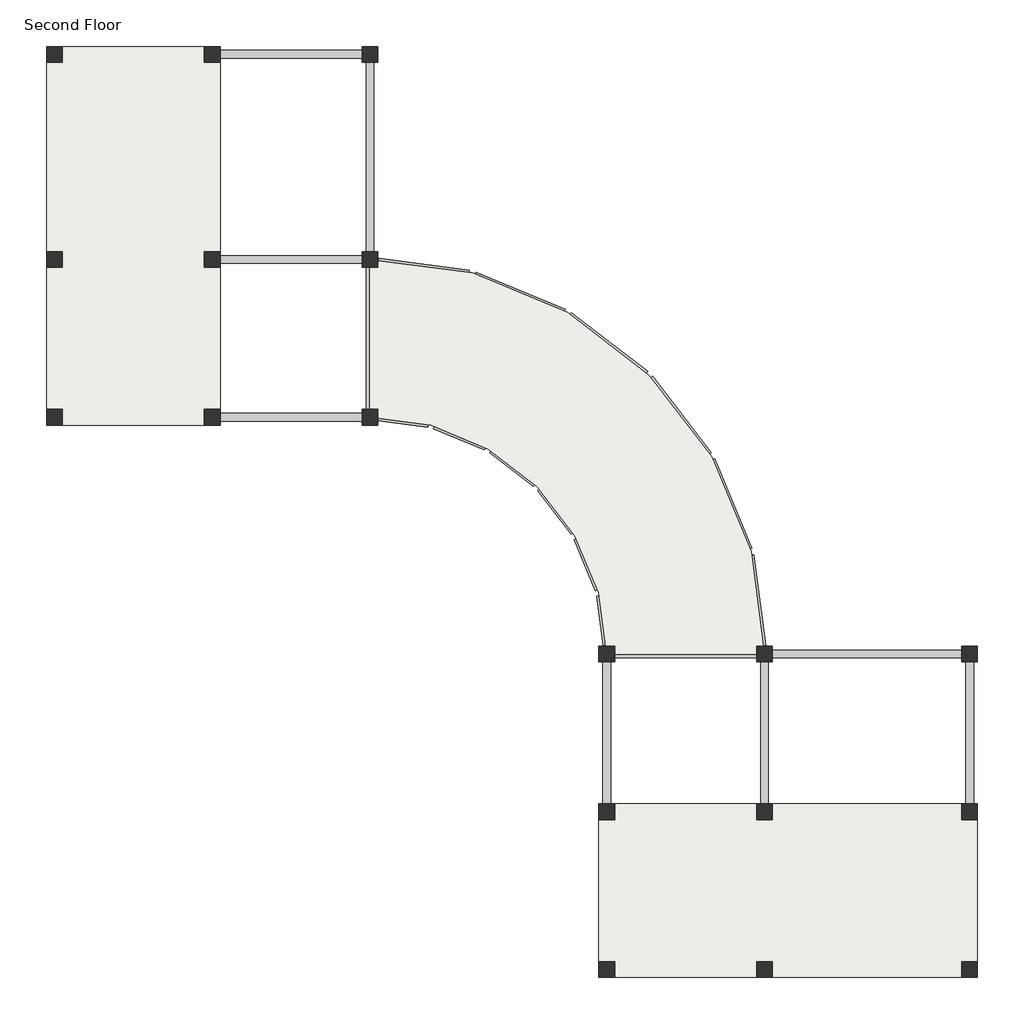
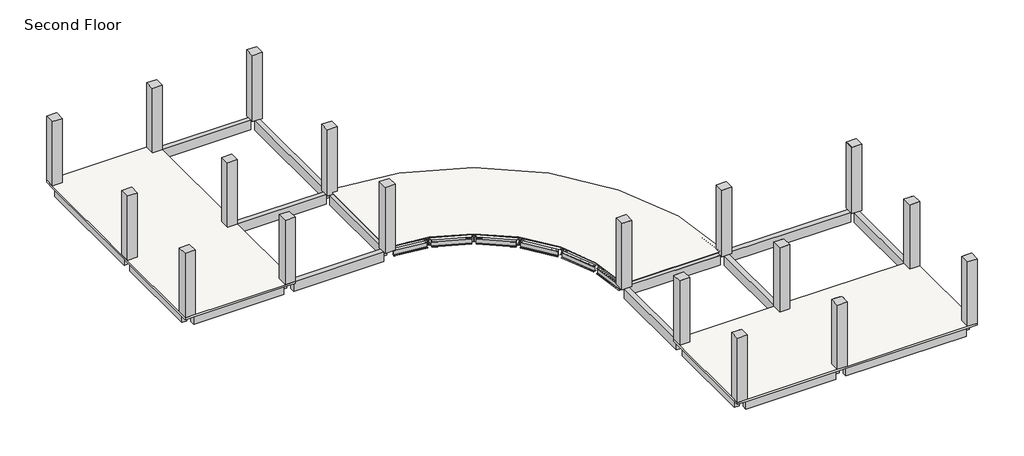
# One storey: 42 beams, 27 columns, 3 slabs.
"""IFC4 building model written with IfcOpenShell, lengths in millimetres."""

from ifc_helpers import new_model, si_unit, frame, origin, place, context, project, spatial, polyline, outline, extrude, faceted_brep, transform, mapped, element, save
from components import w_shapes_w14x30_e37d3bf5, w_shapes_w14x30_b3bb4f38, w_shapes_w14x30_e9898bc3, w_shapes_w14x30_4b075543, w_shapes_w14x30_7ddd8bd5, w_shapes_w14x30_4e72aeae, w_shapes_w14x30_47131812, w_shapes_w14x30_8e706a4a

model = new_model("IFC4")

# Units and contexts
model_context = context("Model", 3, world=origin())
ifc_project = project(units=[si_unit("LENGTHUNIT", "METRE", prefix="MILLI")], contexts=[model_context])

# Site, building, storey
site = spatial("IfcSite", under=ifc_project)
building = spatial("IfcBuilding", under=site)
storey = spatial("IfcBuildingStorey", under=building, Name="Second Floor", Elevation=3048.0)

# Beams
placement = place(None, origin())
element("IfcBeam", 1, ObjectType="Concrete-Rectangular Beam : 12 x 24", at=placement, inside=storey, context=model_context, shape_type="SweptSolid", body=[
    extrude(outline(polyline([(-38390.2357458, 10155.1034229), (-38390.2357458, 10459.9034229), (-32903.8357458, 10459.9034229), (-32903.8357458, 10155.1034229), (-38390.2357458, 10155.1034229)])), frame((0.0, 0.0, 2438.4), z_axis=(0.0, 0.0, 1.0), x_axis=(1.0, 0.0, 0.0)), (0.0, 0.0, 1.0), 609.6),
])
element("IfcBeam", 2, ObjectType="Concrete-Rectangular Beam : 12 x 24", at=placement, inside=storey, context=model_context, shape_type="SweptSolid", body=[
    extrude(outline(polyline([(-32294.2357458, 10155.1034229), (-32294.2357458, 10459.9034229), (-26807.8357458, 10459.9034229), (-26807.8357458, 10155.1034229), (-32294.2357458, 10155.1034229)])), frame((0.0, 0.0, 2438.4), z_axis=(0.0, 0.0, 1.0), x_axis=(1.0, 0.0, 0.0)), (0.0, 0.0, 1.0), 609.6),
])
element("IfcBeam", 3, ObjectType="Concrete-Rectangular Beam : 12 x 24", at=placement, inside=storey, context=model_context, shape_type="SweptSolid", body=[
    extrude(outline(polyline([(-32294.2357458, -3865.6965771), (-32294.2357458, -3560.8965771), (-26807.8357458, -3560.8965771), (-26807.8357458, -3865.6965771), (-32294.2357458, -3865.6965771)])), frame((0.0, 0.0, 2438.4), z_axis=(0.0, 0.0, 1.0), x_axis=(1.0, 0.0, 0.0)), (0.0, 0.0, 1.0), 609.6),
])
element("IfcBeam", 4, ObjectType="Concrete-Rectangular Beam : 12 x 24", at=placement, inside=storey, context=model_context, shape_type="SweptSolid", body=[
    extrude(outline(polyline([(-38390.2357458, -3865.6965771), (-38390.2357458, -3560.8965771), (-32903.8357458, -3560.8965771), (-32903.8357458, -3865.6965771), (-38390.2357458, -3865.6965771)])), frame((0.0, 0.0, 2438.4), z_axis=(0.0, 0.0, 1.0), x_axis=(1.0, 0.0, 0.0)), (0.0, 0.0, 1.0), 609.6),
])
element("IfcBeam", 5, ObjectType="Concrete-Rectangular Beam : 12 x 24", at=placement, inside=storey, context=model_context, shape_type="SweptSolid", body=[
    extrude(outline(polyline([(-32294.2357458, 2230.3034229), (-32294.2357458, 2535.1034229), (-26807.8357458, 2535.1034229), (-26807.8357458, 2230.3034229), (-32294.2357458, 2230.3034229)])), frame((0.0, 0.0, 2438.4), z_axis=(0.0, 0.0, 1.0), x_axis=(1.0, 0.0, 0.0)), (0.0, 0.0, 1.0), 609.6),
])
element("IfcBeam", 6, ObjectType="Concrete-Rectangular Beam : 12 x 24", at=placement, inside=storey, context=model_context, shape_type="SweptSolid", body=[
    extrude(outline(polyline([(-38390.2357458, 2230.3034229), (-38390.2357458, 2535.1034229), (-32903.8357458, 2535.1034229), (-32903.8357458, 2230.3034229), (-38390.2357458, 2230.3034229)])), frame((0.0, 0.0, 2438.4), z_axis=(0.0, 0.0, 1.0), x_axis=(1.0, 0.0, 0.0)), (0.0, 0.0, 1.0), 609.6),
])
element("IfcBeam", 7, ObjectType="Concrete-Rectangular Beam : 12 x 24", at=placement, inside=storey, context=model_context, shape_type="SweptSolid", body=[
    extrude(outline(polyline([(-26350.6357458, -3408.4965771), (-26655.4357458, -3408.4965771), (-26655.4357458, 2077.9034229), (-26350.6357458, 2077.9034229), (-26350.6357458, -3408.4965771)])), frame((0.0, 0.0, 2438.4), z_axis=(0.0, 0.0, 1.0), x_axis=(1.0, 0.0, 0.0)), (0.0, 0.0, 1.0), 609.6),
])
element("IfcBeam", 8, ObjectType="Concrete-Rectangular Beam : 12 x 24", at=placement, inside=storey, context=model_context, shape_type="SweptSolid", body=[
    extrude(outline(polyline([(-26350.6357458, 2687.5034229), (-26655.4357458, 2687.5034229), (-26655.4357458, 10002.7034229), (-26350.6357458, 10002.7034229), (-26350.6357458, 2687.5034229)])), frame((0.0, 0.0, 2438.4), z_axis=(0.0, 0.0, 1.0), x_axis=(1.0, 0.0, 0.0)), (0.0, 0.0, 1.0), 609.6),
])
element("IfcBeam", 9, ObjectType="Concrete-Rectangular Beam : 12 x 24", at=placement, inside=storey, context=model_context, shape_type="SweptSolid", body=[
    extrude(outline(polyline([(-32446.6357458, -3408.4965771), (-32751.4357458, -3408.4965771), (-32751.4357458, 2077.9034229), (-32446.6357458, 2077.9034229), (-32446.6357458, -3408.4965771)])), frame((0.0, 0.0, 2438.4), z_axis=(0.0, 0.0, 1.0), x_axis=(1.0, 0.0, 0.0)), (0.0, 0.0, 1.0), 609.6),
])
element("IfcBeam", 10, ObjectType="Concrete-Rectangular Beam : 12 x 24", at=placement, inside=storey, context=model_context, shape_type="SweptSolid", body=[
    extrude(outline(polyline([(-32446.6357458, 2687.5034229), (-32751.4357458, 2687.5034229), (-32751.4357458, 10002.7034229), (-32446.6357458, 10002.7034229), (-32446.6357458, 2687.5034229)])), frame((0.0, 0.0, 2438.4), z_axis=(0.0, 0.0, 1.0), x_axis=(1.0, 0.0, 0.0)), (0.0, 0.0, 1.0), 609.6),
])
element("IfcBeam", 11, ObjectType="Concrete-Rectangular Beam : 12 x 24", at=placement, inside=storey, context=model_context, shape_type="SweptSolid", body=[
    extrude(outline(polyline([(-38542.6357458, -3408.4965771), (-38847.4357458, -3408.4965771), (-38847.4357458, 2077.9034229), (-38542.6357458, 2077.9034229), (-38542.6357458, -3408.4965771)])), frame((0.0, 0.0, 2438.4), z_axis=(0.0, 0.0, 1.0), x_axis=(1.0, 0.0, 0.0)), (0.0, 0.0, 1.0), 609.6),
])
element("IfcBeam", 12, ObjectType="Concrete-Rectangular Beam : 12 x 24", at=placement, inside=storey, context=model_context, shape_type="SweptSolid", body=[
    extrude(outline(polyline([(-38542.6357458, 2687.5034229), (-38847.4357458, 2687.5034229), (-38847.4357458, 10002.7034229), (-38542.6357458, 10002.7034229), (-38542.6357458, 2687.5034229)])), frame((0.0, 0.0, 2438.4), z_axis=(0.0, 0.0, 1.0), x_axis=(1.0, 0.0, 0.0)), (0.0, 0.0, 1.0), 609.6),
])
element("IfcBeam", 13, ObjectType="Concrete-Rectangular Beam : 12 x 24", at=placement, inside=storey, context=model_context, shape_type="SweptSolid", body=[
    extrude(outline(polyline([(-3185.8357458, -24744.4965771), (-3490.6357458, -24744.4965771), (-3490.6357458, -19258.0965771), (-3185.8357458, -19258.0965771), (-3185.8357458, -24744.4965771)])), frame((0.0, 0.0, 2438.4), z_axis=(0.0, 0.0, 1.0), x_axis=(1.0, 0.0, 0.0)), (0.0, 0.0, 1.0), 609.6),
])
element("IfcBeam", 14, ObjectType="Concrete-Rectangular Beam : 12 x 24", at=placement, inside=storey, context=model_context, shape_type="SweptSolid", body=[
    extrude(outline(polyline([(-3185.8357458, -18648.4965771), (-3490.6357458, -18648.4965771), (-3490.6357458, -13162.0965771), (-3185.8357458, -13162.0965771), (-3185.8357458, -18648.4965771)])), frame((0.0, 0.0, 2438.4), z_axis=(0.0, 0.0, 1.0), x_axis=(1.0, 0.0, 0.0)), (0.0, 0.0, 1.0), 609.6),
])
element("IfcBeam", 15, ObjectType="Concrete-Rectangular Beam : 12 x 24", at=placement, inside=storey, context=model_context, shape_type="SweptSolid", body=[
    extrude(outline(polyline([(-17206.6357458, -18648.4965771), (-17511.4357458, -18648.4965771), (-17511.4357458, -13162.0965771), (-17206.6357458, -13162.0965771), (-17206.6357458, -18648.4965771)])), frame((0.0, 0.0, 2438.4), z_axis=(0.0, 0.0, 1.0), x_axis=(1.0, 0.0, 0.0)), (0.0, 0.0, 1.0), 609.6),
])
element("IfcBeam", 16, ObjectType="Concrete-Rectangular Beam : 12 x 24", at=placement, inside=storey, context=model_context, shape_type="SweptSolid", body=[
    extrude(outline(polyline([(-17206.6357458, -24744.4965771), (-17511.4357458, -24744.4965771), (-17511.4357458, -19258.0965771), (-17206.6357458, -19258.0965771), (-17206.6357458, -24744.4965771)])), frame((0.0, 0.0, 2438.4), z_axis=(0.0, 0.0, 1.0), x_axis=(1.0, 0.0, 0.0)), (0.0, 0.0, 1.0), 609.6),
])
element("IfcBeam", 17, ObjectType="Concrete-Rectangular Beam : 12 x 24", at=placement, inside=storey, context=model_context, shape_type="SweptSolid", body=[
    extrude(outline(polyline([(-11110.6357458, -18648.4965771), (-11415.4357458, -18648.4965771), (-11415.4357458, -13162.0965771), (-11110.6357458, -13162.0965771), (-11110.6357458, -18648.4965771)])), frame((0.0, 0.0, 2438.4), z_axis=(0.0, 0.0, 1.0), x_axis=(1.0, 0.0, 0.0)), (0.0, 0.0, 1.0), 609.6),
])
element("IfcBeam", 18, ObjectType="Concrete-Rectangular Beam : 12 x 24", at=placement, inside=storey, context=model_context, shape_type="SweptSolid", body=[
    extrude(outline(polyline([(-11110.6357458, -24744.4965771), (-11415.4357458, -24744.4965771), (-11415.4357458, -19258.0965771), (-11110.6357458, -19258.0965771), (-11110.6357458, -24744.4965771)])), frame((0.0, 0.0, 2438.4), z_axis=(0.0, 0.0, 1.0), x_axis=(1.0, 0.0, 0.0)), (0.0, 0.0, 1.0), 609.6),
])
element("IfcBeam", 19, ObjectType="Concrete-Rectangular Beam : 12 x 24", at=placement, inside=storey, context=model_context, shape_type="SweptSolid", body=[
    extrude(outline(polyline([(-17054.2357458, -13009.6965771), (-17054.2357458, -12704.8965771), (-11567.8357458, -12704.8965771), (-11567.8357458, -13009.6965771), (-17054.2357458, -13009.6965771)])), frame((0.0, 0.0, 2438.4), z_axis=(0.0, 0.0, 1.0), x_axis=(1.0, 0.0, 0.0)), (0.0, 0.0, 1.0), 609.6),
])
element("IfcBeam", 20, ObjectType="Concrete-Rectangular Beam : 12 x 24", at=placement, inside=storey, context=model_context, shape_type="SweptSolid", body=[
    extrude(outline(polyline([(-10958.2357458, -13009.6965771), (-10958.2357458, -12704.8965771), (-3643.0357458, -12704.8965771), (-3643.0357458, -13009.6965771), (-10958.2357458, -13009.6965771)])), frame((0.0, 0.0, 2438.4), z_axis=(0.0, 0.0, 1.0), x_axis=(1.0, 0.0, 0.0)), (0.0, 0.0, 1.0), 609.6),
])
element("IfcBeam", 21, ObjectType="Concrete-Rectangular Beam : 12 x 24", at=placement, inside=storey, context=model_context, shape_type="SweptSolid", body=[
    extrude(outline(polyline([(-17054.2357458, -19105.6965771), (-17054.2357458, -18800.8965771), (-11567.8357458, -18800.8965771), (-11567.8357458, -19105.6965771), (-17054.2357458, -19105.6965771)])), frame((0.0, 0.0, 2438.4), z_axis=(0.0, 0.0, 1.0), x_axis=(1.0, 0.0, 0.0)), (0.0, 0.0, 1.0), 609.6),
])
element("IfcBeam", 22, ObjectType="Concrete-Rectangular Beam : 12 x 24", at=placement, inside=storey, context=model_context, shape_type="SweptSolid", body=[
    extrude(outline(polyline([(-10958.2357458, -19105.6965771), (-10958.2357458, -18800.8965771), (-3643.0357458, -18800.8965771), (-3643.0357458, -19105.6965771), (-10958.2357458, -19105.6965771)])), frame((0.0, 0.0, 2438.4), z_axis=(0.0, 0.0, 1.0), x_axis=(1.0, 0.0, 0.0)), (0.0, 0.0, 1.0), 609.6),
])
element("IfcBeam", 23, ObjectType="Concrete-Rectangular Beam : 12 x 24", at=placement, inside=storey, context=model_context, shape_type="SweptSolid", body=[
    extrude(outline(polyline([(-17054.2357458, -25201.6965771), (-17054.2357458, -24896.8965771), (-11567.8357458, -24896.8965771), (-11567.8357458, -25201.6965771), (-17054.2357458, -25201.6965771)])), frame((0.0, 0.0, 2438.4), z_axis=(0.0, 0.0, 1.0), x_axis=(1.0, 0.0, 0.0)), (0.0, 0.0, 1.0), 609.6),
])
element("IfcBeam", 24, ObjectType="Concrete-Rectangular Beam : 12 x 24", at=placement, inside=storey, context=model_context, shape_type="SweptSolid", body=[
    extrude(outline(polyline([(-10958.2357458, -25201.6965771), (-10958.2357458, -24896.8965771), (-3643.0357458, -24896.8965771), (-3643.0357458, -25201.6965771), (-10958.2357458, -25201.6965771)])), frame((0.0, 0.0, 2438.4), z_axis=(0.0, 0.0, 1.0), x_axis=(1.0, 0.0, 0.0)), (0.0, 0.0, 1.0), 609.6),
])
w_shapes_w14x30_shape = w_shapes_w14x30_e37d3bf5(model_context)
element("IfcBeam", 25, ObjectType="W Shapes : W14X30", at=placement, inside=storey, context=model_context, shape_type="MappedRepresentation", body=[
    mapped(w_shapes_w14x30_shape, transform((-25319.7150716, -3869.0836993, 2745.74), x_axis=(0.9914448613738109, -0.13052619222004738, 0.0), y_axis=(0.13052619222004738, 0.9914448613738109, 0.0), z_axis=(0.0, 0.0, 1.0))),
])
w_shapes_w14x30_2_shape = w_shapes_w14x30_b3bb4f38(model_context)
element("IfcBeam", 26, ObjectType="W Shapes : W14X30", at=placement, inside=storey, context=model_context, shape_type="MappedRepresentation", body=[
    mapped(w_shapes_w14x30_2_shape, transform((-23033.7150716, -4481.6155532, 2745.74), x_axis=(0.9238795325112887, -0.38268343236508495, 0.0), y_axis=(0.38268343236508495, 0.9238795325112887, 0.0), z_axis=(0.0, 0.0, 1.0))),
])
element("IfcBeam", 27, ObjectType="W Shapes : W14X30", at=placement, inside=storey, context=model_context, shape_type="MappedRepresentation", body=[
    mapped(w_shapes_w14x30_2_shape, transform((-20984.1435422, -5664.9362274, 2745.74), x_axis=(0.7933533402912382, -0.6087614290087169, 0.0), y_axis=(0.6087614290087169, 0.7933533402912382, 0.0), z_axis=(0.0, 0.0, 1.0))),
])
element("IfcBeam", 28, ObjectType="W Shapes : W14X30", at=placement, inside=storey, context=model_context, shape_type="MappedRepresentation", body=[
    mapped(w_shapes_w14x30_2_shape, transform((-19310.6753961, -7338.4043735, 2745.74), x_axis=(0.6087614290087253, -0.7933533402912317, 0.0), y_axis=(0.7933533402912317, 0.6087614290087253, 0.0), z_axis=(0.0, 0.0, 1.0))),
])
element("IfcBeam", 29, ObjectType="W Shapes : W14X30", at=placement, inside=storey, context=model_context, shape_type="MappedRepresentation", body=[
    mapped(w_shapes_w14x30_2_shape, transform((-18127.3547219, -9387.9759029, 2745.74), x_axis=(0.38268343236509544, -0.9238795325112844, 0.0), y_axis=(0.9238795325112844, 0.38268343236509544, 0.0), z_axis=(0.0, 0.0, 1.0))),
])
w_shapes_w14x30_3_shape = w_shapes_w14x30_e9898bc3(model_context)
element("IfcBeam", 30, ObjectType="W Shapes : W14X30", at=placement, inside=storey, context=model_context, shape_type="MappedRepresentation", body=[
    mapped(w_shapes_w14x30_3_shape, transform((-17514.822868, -11673.9759029, 2745.74), x_axis=(0.1305261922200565, -0.9914448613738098, 0.0), y_axis=(0.9914448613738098, 0.1305261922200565, 0.0), z_axis=(0.0, 0.0, 1.0))),
])
w_shapes_w14x30_4_shape = w_shapes_w14x30_4b075543(model_context)
element("IfcBeam", 31, ObjectType="W Shapes : W14X30", at=placement, inside=storey, context=model_context, shape_type="MappedRepresentation", body=[
    mapped(w_shapes_w14x30_4_shape, transform((-23347.5139479, -1080.728903, 2745.74), x_axis=(0.25881904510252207, 0.9659258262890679, 0.0), y_axis=(-0.9659258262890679, 0.25881904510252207, 0.0), z_axis=(0.0, 0.0, 1.0))),
])
element("IfcBeam", 32, ObjectType="W Shapes : W14X30", at=placement, inside=storey, context=model_context, shape_type="MappedRepresentation", body=[
    mapped(w_shapes_w14x30_4_shape, transform((-14726.4680717, -9701.7747792, 2745.74), x_axis=(0.9659258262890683, 0.2588190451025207, 0.0), y_axis=(-0.2588190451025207, 0.9659258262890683, 0.0), z_axis=(0.0, 0.0, 1.0))),
])
element("IfcBeam", 33, ObjectType="W Shapes : W14X30", at=placement, inside=storey, context=model_context, shape_type="MappedRepresentation", body=[
    mapped(w_shapes_w14x30_4_shape, transform((-15944.4540229, -6761.2965771, 2745.74), x_axis=(0.866025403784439, 0.4999999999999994, 0.0), y_axis=(-0.4999999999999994, 0.866025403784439, 0.0), z_axis=(0.0, 0.0, 1.0))),
])
element("IfcBeam", 34, ObjectType="W Shapes : W14X30", at=placement, inside=storey, context=model_context, shape_type="MappedRepresentation", body=[
    mapped(w_shapes_w14x30_4_shape, transform((-17881.9898696, -4236.2507009, 2745.74), x_axis=(0.7071067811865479, 0.7071067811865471, 0.0), y_axis=(-0.7071067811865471, 0.7071067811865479, 0.0), z_axis=(0.0, 0.0, 1.0))),
])
element("IfcBeam", 35, ObjectType="W Shapes : W14X30", at=placement, inside=storey, context=model_context, shape_type="MappedRepresentation", body=[
    mapped(w_shapes_w14x30_4_shape, transform((-20407.0357458, -2298.7148542, 2745.74), x_axis=(0.5000000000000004, 0.8660254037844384, 0.0), y_axis=(-0.8660254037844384, 0.5000000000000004, 0.0), z_axis=(0.0, 0.0, 1.0))),
])
w_shapes_w14x30_5_shape = w_shapes_w14x30_7ddd8bd5(model_context)
element("IfcBeam", 36, ObjectType="W Shapes : W14X30", at=placement, inside=storey, context=model_context, shape_type="MappedRepresentation", body=[
    mapped(w_shapes_w14x30_5_shape, transform((-14311.0357458, -12857.2965771, 2745.74), x_axis=(1.0, 0.0, 0.0), y_axis=(0.0, 1.0, 0.0), z_axis=(0.0, 0.0, 1.0))),
])
w_shapes_w14x30_6_shape = w_shapes_w14x30_4e72aeae(model_context)
element("IfcBeam", 37, ObjectType="W Shapes : W14X30", at=placement, inside=storey, context=model_context, shape_type="MappedRepresentation", body=[
    mapped(w_shapes_w14x30_6_shape, transform((-24530.8346221, 2123.0582192, 2745.74), x_axis=(0.991444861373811, -0.1305261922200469, 0.0), y_axis=(0.1305261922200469, 0.991444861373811, 0.0), z_axis=(0.0, 0.0, 1.0))),
])
w_shapes_w14x30_7_shape = w_shapes_w14x30_47131812(model_context)
element("IfcBeam", 38, ObjectType="W Shapes : W14X30", at=placement, inside=storey, context=model_context, shape_type="MappedRepresentation", body=[
    mapped(w_shapes_w14x30_7_shape, transform((-20720.8346221, 1102.171796, 2745.74), x_axis=(0.9238795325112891, -0.3826834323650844, 0.0), y_axis=(0.3826834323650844, 0.9238795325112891, 0.0), z_axis=(0.0, 0.0, 1.0))),
])
element("IfcBeam", 39, ObjectType="W Shapes : W14X30", at=placement, inside=storey, context=model_context, shape_type="MappedRepresentation", body=[
    mapped(w_shapes_w14x30_7_shape, transform((-17304.8820732, -870.0293276, 2745.74), x_axis=(0.7933533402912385, -0.6087614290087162, 0.0), y_axis=(0.6087614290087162, 0.7933533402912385, 0.0), z_axis=(0.0, 0.0, 1.0))),
])
element("IfcBeam", 40, ObjectType="W Shapes : W14X30", at=placement, inside=storey, context=model_context, shape_type="MappedRepresentation", body=[
    mapped(w_shapes_w14x30_7_shape, transform((-14515.7684963, -3659.1429045, 2745.74), x_axis=(0.608761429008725, -0.7933533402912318, 0.0), y_axis=(0.7933533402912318, 0.608761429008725, 0.0), z_axis=(0.0, 0.0, 1.0))),
])
element("IfcBeam", 41, ObjectType="W Shapes : W14X30", at=placement, inside=storey, context=model_context, shape_type="MappedRepresentation", body=[
    mapped(w_shapes_w14x30_7_shape, transform((-12543.5673727, -7075.0954534, 2745.74), x_axis=(0.38268343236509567, -0.9238795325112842, 0.0), y_axis=(0.9238795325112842, 0.38268343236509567, 0.0), z_axis=(0.0, 0.0, 1.0))),
])
w_shapes_w14x30_8_shape = w_shapes_w14x30_8e706a4a(model_context)
element("IfcBeam", 42, ObjectType="W Shapes : W14X30", at=placement, inside=storey, context=model_context, shape_type="MappedRepresentation", body=[
    mapped(w_shapes_w14x30_8_shape, transform((-11522.6809495, -10885.0954534, 2745.74), x_axis=(0.13052619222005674, -0.9914448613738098, 0.0), y_axis=(0.9914448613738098, 0.13052619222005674, 0.0), z_axis=(0.0, 0.0, 1.0))),
])

# Columns
element("IfcColumn", 43, ObjectType="Concrete-Rectangular-Column : 24 x 24", at=placement, inside=storey, context=model_context, shape_type="SweptSolid", body=[
    extrude(outline(polyline([(-38999.8357458, -4018.0965771), (-38999.8357458, -3408.4965771), (-38390.2357458, -3408.4965771), (-38390.2357458, -4018.0965771), (-38999.8357458, -4018.0965771)])), frame((0.0, 0.0, 3168.65), z_axis=(0.0, 0.0, 1.0), x_axis=(1.0, 0.0, 0.0)), (0.0, 0.0, 1.0), 4146.55),
])
element("IfcColumn", 44, ObjectType="Concrete-Rectangular-Column : 24 x 24", at=placement, inside=storey, context=model_context, shape_type="SweptSolid", body=[
    extrude(outline(polyline([(-38999.8357458, 2077.9034229), (-38999.8357458, 2687.5034229), (-38390.2357458, 2687.5034229), (-38390.2357458, 2077.9034229), (-38999.8357458, 2077.9034229)])), frame((0.0, 0.0, 3168.65), z_axis=(0.0, 0.0, 1.0), x_axis=(1.0, 0.0, 0.0)), (0.0, 0.0, 1.0), 4146.55),
])
element("IfcColumn", 45, ObjectType="Concrete-Rectangular-Column : 24 x 24", at=placement, inside=storey, context=model_context, shape_type="SweptSolid", body=[
    extrude(outline(polyline([(-38390.2357458, 10612.3034229), (-38390.2357458, 10002.7034229), (-38999.8357458, 10002.7034229), (-38999.8357458, 10612.3034229), (-38390.2357458, 10612.3034229)])), frame((0.0, 0.0, 3168.65), z_axis=(0.0, 0.0, 1.0), x_axis=(1.0, 0.0, 0.0)), (0.0, 0.0, 1.0), 4146.55),
])
element("IfcColumn", 46, ObjectType="Concrete-Rectangular-Column : 24 x 24", at=placement, inside=storey, context=model_context, shape_type="SweptSolid", body=[
    extrude(outline(polyline([(-32903.8357458, -4018.0965771), (-32903.8357458, -3408.4965771), (-32294.2357458, -3408.4965771), (-32294.2357458, -4018.0965771), (-32903.8357458, -4018.0965771)])), frame((0.0, 0.0, 3168.65), z_axis=(0.0, 0.0, 1.0), x_axis=(1.0, 0.0, 0.0)), (0.0, 0.0, 1.0), 4146.55),
])
element("IfcColumn", 47, ObjectType="Concrete-Rectangular-Column : 24 x 24", at=placement, inside=storey, context=model_context, shape_type="SweptSolid", body=[
    extrude(outline(polyline([(-32903.8357458, 2077.9034229), (-32903.8357458, 2687.5034229), (-32294.2357458, 2687.5034229), (-32294.2357458, 2077.9034229), (-32903.8357458, 2077.9034229)])), frame((0.0, 0.0, 3168.65), z_axis=(0.0, 0.0, 1.0), x_axis=(1.0, 0.0, 0.0)), (0.0, 0.0, 1.0), 4146.55),
])
element("IfcColumn", 48, ObjectType="Concrete-Rectangular-Column : 24 x 24", at=placement, inside=storey, context=model_context, shape_type="SweptSolid", body=[
    extrude(outline(polyline([(-32294.2357458, 10612.3034229), (-32294.2357458, 10002.7034229), (-32903.8357458, 10002.7034229), (-32903.8357458, 10612.3034229), (-32294.2357458, 10612.3034229)])), frame((0.0, 0.0, 3168.65), z_axis=(0.0, 0.0, 1.0), x_axis=(1.0, 0.0, 0.0)), (0.0, 0.0, 1.0), 4146.55),
])
element("IfcColumn", 49, ObjectType="Concrete-Rectangular-Column : 24 x 24", at=placement, inside=storey, context=model_context, shape_type="Brep", body=[
    faceted_brep([(-26807.8357458, -4018.0965771, 3048.0), (-26807.8357458, -3408.4965771, 3048.0), (-26198.2357458, -3408.4965771, 3048.0), (-26198.2357458, -4018.0965771, 3048.0), (-26807.8357458, -4018.0965771, 7315.2), (-26807.8357458, -3408.4965771, 7315.2), (-26198.2357458, -3408.4965771, 7315.2), (-26198.2357458, -3408.4965771, 3168.65), (-26503.0357458, -3408.4965771, 3168.65), (-26503.0357458, -3408.4965771, 3130.55), (-26198.2357458, -3408.4965771, 3130.55), (-26198.2357458, -3753.4242584, 3130.55), (-26198.2357458, -3753.4242584, 3168.65), (-26198.2357458, -4018.0965771, 7315.2), (-26503.0357458, -3713.2965771, 3130.55), (-26503.0357458, -3713.2965771, 3168.65)], [[[0, 1, 2, 3]], [[1, 0, 4, 5]], [[2, 1, 5, 6, 7, 8, 9, 10]], [[3, 2, 10, 11, 12, 7, 6, 13]], [[0, 3, 13, 4]], [[5, 4, 13, 6]], [[9, 14, 11, 10]], [[12, 15, 8, 7]], [[14, 15, 12, 11]], [[15, 14, 9, 8]]]),
])
element("IfcColumn", 50, ObjectType="Concrete-Rectangular-Column : 24 x 24", at=placement, inside=storey, context=model_context, shape_type="Brep", body=[
    faceted_brep([(-26807.8357458, 2077.9034229, 3048.0), (-26807.8357458, 2687.5034229, 3048.0), (-26198.2357458, 2687.5034229, 3048.0), (-26198.2357458, 2077.9034229, 3048.0), (-26807.8357458, 2077.9034229, 7315.2), (-26807.8357458, 2687.5034229, 7315.2), (-26198.2357458, 2687.5034229, 7315.2), (-26198.2357458, 2077.9034229, 7315.2), (-26198.2357458, 2077.9034229, 3168.65), (-26198.2357458, 2342.5757416, 3168.65), (-26198.2357458, 2342.5757416, 3130.55), (-26198.2357458, 2077.9034229, 3130.55), (-26503.0357458, 2077.9034229, 3130.55), (-26503.0357458, 2077.9034229, 3168.65), (-26503.0357458, 2382.7034229, 3130.55), (-26503.0357458, 2382.7034229, 3168.65)], [[[0, 1, 2, 3]], [[1, 0, 4, 5]], [[2, 1, 5, 6]], [[3, 2, 6, 7, 8, 9, 10, 11]], [[0, 3, 11, 12, 13, 8, 7, 4]], [[5, 4, 7, 6]], [[14, 12, 11, 10]], [[15, 9, 8, 13]], [[15, 14, 10, 9]], [[14, 15, 13, 12]]]),
])
element("IfcColumn", 51, ObjectType="Concrete-Rectangular-Column : 24 x 24", at=placement, inside=storey, context=model_context, shape_type="SweptSolid", body=[
    extrude(outline(polyline([(-26198.2357458, 10612.3034229), (-26198.2357458, 10002.7034229), (-26807.8357458, 10002.7034229), (-26807.8357458, 10612.3034229), (-26198.2357458, 10612.3034229)])), frame((0.0, 0.0, 3048.0), z_axis=(0.0, 0.0, 1.0), x_axis=(1.0, 0.0, 0.0)), (0.0, 0.0, 1.0), 4267.2),
])
element("IfcColumn", 52, ObjectType="Concrete-Rectangular-Column : 24 x 24", at=placement, inside=storey, context=model_context, shape_type="SweptSolid", body=[
    extrude(outline(polyline([(-17054.2357458, -25354.0965771), (-17663.8357458, -25354.0965771), (-17663.8357458, -24744.4965771), (-17054.2357458, -24744.4965771), (-17054.2357458, -25354.0965771)])), frame((0.0, 0.0, 3168.65), z_axis=(0.0, 0.0, 1.0), x_axis=(1.0, 0.0, 0.0)), (0.0, 0.0, 1.0), 4146.55),
])
element("IfcColumn", 53, ObjectType="Concrete-Rectangular-Column : 24 x 24", at=placement, inside=storey, context=model_context, shape_type="SweptSolid", body=[
    extrude(outline(polyline([(-10958.2357458, -25354.0965771), (-11567.8357458, -25354.0965771), (-11567.8357458, -24744.4965771), (-10958.2357458, -24744.4965771), (-10958.2357458, -25354.0965771)])), frame((0.0, 0.0, 3168.65), z_axis=(0.0, 0.0, 1.0), x_axis=(1.0, 0.0, 0.0)), (0.0, 0.0, 1.0), 4146.55),
])
element("IfcColumn", 54, ObjectType="Concrete-Rectangular-Column : 24 x 24", at=placement, inside=storey, context=model_context, shape_type="SweptSolid", body=[
    extrude(outline(polyline([(-3643.0357458, -24744.4965771), (-3033.4357458, -24744.4965771), (-3033.4357458, -25354.0965771), (-3643.0357458, -25354.0965771), (-3643.0357458, -24744.4965771)])), frame((0.0, 0.0, 3168.65), z_axis=(0.0, 0.0, 1.0), x_axis=(1.0, 0.0, 0.0)), (0.0, 0.0, 1.0), 4146.55),
])
element("IfcColumn", 55, ObjectType="Concrete-Rectangular-Column : 24 x 24", at=placement, inside=storey, context=model_context, shape_type="SweptSolid", body=[
    extrude(outline(polyline([(-17054.2357458, -19258.0965771), (-17663.8357458, -19258.0965771), (-17663.8357458, -18648.4965771), (-17054.2357458, -18648.4965771), (-17054.2357458, -19258.0965771)])), frame((0.0, 0.0, 3168.65), z_axis=(0.0, 0.0, 1.0), x_axis=(1.0, 0.0, 0.0)), (0.0, 0.0, 1.0), 4146.55),
])
element("IfcColumn", 56, ObjectType="Concrete-Rectangular-Column : 24 x 24", at=placement, inside=storey, context=model_context, shape_type="SweptSolid", body=[
    extrude(outline(polyline([(-10958.2357458, -19258.0965771), (-11567.8357458, -19258.0965771), (-11567.8357458, -18648.4965771), (-10958.2357458, -18648.4965771), (-10958.2357458, -19258.0965771)])), frame((0.0, 0.0, 3168.65), z_axis=(0.0, 0.0, 1.0), x_axis=(1.0, 0.0, 0.0)), (0.0, 0.0, 1.0), 4146.55),
])
element("IfcColumn", 57, ObjectType="Concrete-Rectangular-Column : 24 x 24", at=placement, inside=storey, context=model_context, shape_type="SweptSolid", body=[
    extrude(outline(polyline([(-3643.0357458, -18648.4965771), (-3033.4357458, -18648.4965771), (-3033.4357458, -19258.0965771), (-3643.0357458, -19258.0965771), (-3643.0357458, -18648.4965771)])), frame((0.0, 0.0, 3168.65), z_axis=(0.0, 0.0, 1.0), x_axis=(1.0, 0.0, 0.0)), (0.0, 0.0, 1.0), 4146.55),
])
element("IfcColumn", 58, ObjectType="Concrete-Rectangular-Column : 24 x 24", at=placement, inside=storey, context=model_context, shape_type="Brep", body=[
    faceted_brep([(-17054.2357458, -13162.0965771, 3048.0), (-17663.8357458, -13162.0965771, 3048.0), (-17663.8357458, -12552.4965771, 3048.0), (-17054.2357458, -12552.4965771, 3048.0), (-17054.2357458, -13162.0965771, 7315.2), (-17663.8357458, -13162.0965771, 7315.2), (-17054.2357458, -12552.4965771, 3130.55), (-17054.2357458, -12857.2965771, 3130.55), (-17054.2357458, -12857.2965771, 3168.65), (-17054.2357458, -12552.4965771, 3168.65), (-17054.2357458, -12552.4965771, 7315.2), (-17663.8357458, -12552.4965771, 7315.2), (-17399.1634271, -12552.4965771, 3168.65), (-17399.1634271, -12552.4965771, 3130.55), (-17359.0357458, -12857.2965771, 3130.55), (-17359.0357458, -12857.2965771, 3168.65)], [[[0, 1, 2, 3]], [[1, 0, 4, 5]], [[0, 3, 6, 7, 8, 9, 10, 4]], [[3, 2, 11, 10, 9, 12, 13, 6]], [[2, 1, 5, 11]], [[5, 4, 10, 11]], [[13, 14, 7, 6]], [[8, 15, 12, 9]], [[14, 15, 8, 7]], [[15, 14, 13, 12]]]),
])
element("IfcColumn", 59, ObjectType="Concrete-Rectangular-Column : 24 x 24", at=placement, inside=storey, context=model_context, shape_type="Brep", body=[
    faceted_brep([(-10958.2357458, -13162.0965771, 3048.0), (-11567.8357458, -13162.0965771, 3048.0), (-11567.8357458, -12552.4965771, 3048.0), (-10958.2357458, -12552.4965771, 3048.0), (-10958.2357458, -13162.0965771, 7315.2), (-11567.8357458, -13162.0965771, 7315.2), (-10958.2357458, -12552.4965771, 7315.2), (-11567.8357458, -12552.4965771, 3130.55), (-11303.1634271, -12552.4965771, 3130.55), (-11303.1634271, -12552.4965771, 3168.65), (-11567.8357458, -12552.4965771, 3168.65), (-11567.8357458, -12552.4965771, 7315.2), (-11567.8357458, -12857.2965771, 3168.65), (-11567.8357458, -12857.2965771, 3130.55), (-11263.0357458, -12857.2965771, 3130.55), (-11263.0357458, -12857.2965771, 3168.65)], [[[0, 1, 2, 3]], [[1, 0, 4, 5]], [[0, 3, 6, 4]], [[3, 2, 7, 8, 9, 10, 11, 6]], [[2, 1, 5, 11, 10, 12, 13, 7]], [[5, 4, 6, 11]], [[13, 14, 8, 7]], [[9, 15, 12, 10]], [[14, 15, 9, 8]], [[15, 14, 13, 12]]]),
])
element("IfcColumn", 60, ObjectType="Concrete-Rectangular-Column : 24 x 24", at=placement, inside=storey, context=model_context, shape_type="SweptSolid", body=[
    extrude(outline(polyline([(-3033.4357458, -12552.4965771), (-3033.4357458, -13162.0965771), (-3643.0357458, -13162.0965771), (-3643.0357458, -12552.4965771), (-3033.4357458, -12552.4965771)])), frame((0.0, 0.0, 3048.0), z_axis=(0.0, 0.0, 1.0), x_axis=(1.0, 0.0, 0.0)), (0.0, 0.0, 1.0), 4267.2),
])
element("IfcColumn", 61, ObjectType="Concrete-Rectangular-Column : 24 x 24", at=placement, inside=storey, context=model_context, shape_type="Brep", body=[
    faceted_brep([(-17054.2357458, -25354.0965771, 7315.2), (-17663.8357458, -25354.0965771, 7315.2), (-17663.8357458, -25354.0965771, 3168.65), (-17054.2357458, -25354.0965771, 3168.65), (-17054.2357458, -24744.4965771, 7315.2), (-17054.2357458, -24896.8965771, 7315.2), (-17054.2357458, -25201.6965771, 7315.2), (-17054.2357458, -24744.4965771, 3168.65), (-17663.8357458, -24744.4965771, 7315.2), (-17511.4357458, -24744.4965771, 7315.2), (-17206.6357458, -24744.4965771, 7315.2), (-17663.8357458, -24744.4965771, 3168.65)], [[[0, 1, 2, 3]], [[4, 5, 6, 0, 3, 7]], [[8, 9, 10, 4, 7, 11]], [[1, 8, 11, 2]], [[1, 0, 6, 5, 4, 10, 9, 8]], [[3, 2, 11, 7]]]),
])
element("IfcColumn", 62, ObjectType="Concrete-Rectangular-Column : 24 x 24", at=placement, inside=storey, context=model_context, shape_type="Brep", body=[
    faceted_brep([(-10958.2357458, -25354.0965771, 7315.2), (-11567.8357458, -25354.0965771, 7315.2), (-11567.8357458, -25354.0965771, 3168.65), (-10958.2357458, -25354.0965771, 3168.65), (-10958.2357458, -24744.4965771, 7315.2), (-10958.2357458, -24896.8965771, 7315.2), (-10958.2357458, -25201.6965771, 7315.2), (-10958.2357458, -24744.4965771, 3168.65), (-11567.8357458, -24744.4965771, 7315.2), (-11415.4357458, -24744.4965771, 7315.2), (-11110.6357458, -24744.4965771, 7315.2), (-11567.8357458, -24744.4965771, 3168.65), (-11567.8357458, -25201.6965771, 7315.2), (-11567.8357458, -24896.8965771, 7315.2)], [[[0, 1, 2, 3]], [[4, 5, 6, 0, 3, 7]], [[8, 9, 10, 4, 7, 11]], [[1, 12, 13, 8, 11, 2]], [[1, 0, 6, 5, 4, 10, 9, 8, 13, 12]], [[3, 2, 11, 7]]]),
])
element("IfcColumn", 63, ObjectType="Concrete-Rectangular-Column : 24 x 24", at=placement, inside=storey, context=model_context, shape_type="Brep", body=[
    faceted_brep([(-3643.0357458, -24744.4965771, 7315.2), (-3490.6357458, -24744.4965771, 7315.2), (-3185.8357458, -24744.4965771, 7315.2), (-3033.4357458, -24744.4965771, 7315.2), (-3033.4357458, -24744.4965771, 3168.65), (-3643.0357458, -24744.4965771, 3168.65), (-3643.0357458, -25354.0965771, 7315.2), (-3643.0357458, -25201.6965771, 7315.2), (-3643.0357458, -24896.8965771, 7315.2), (-3643.0357458, -25354.0965771, 3168.65), (-3033.4357458, -25354.0965771, 7315.2), (-3033.4357458, -25354.0965771, 3168.65)], [[[0, 1, 2, 3, 4, 5]], [[6, 7, 8, 0, 5, 9]], [[10, 6, 9, 11]], [[3, 10, 11, 4]], [[3, 2, 1, 0, 8, 7, 6, 10]], [[5, 4, 11, 9]]]),
])
element("IfcColumn", 64, ObjectType="Concrete-Rectangular-Column : 24 x 24", at=placement, inside=storey, context=model_context, shape_type="Brep", body=[
    faceted_brep([(-17054.2357458, -19258.0965771, 7315.2), (-17206.6357458, -19258.0965771, 7315.2), (-17511.4357458, -19258.0965771, 7315.2), (-17663.8357458, -19258.0965771, 7315.2), (-17663.8357458, -19258.0965771, 3168.65), (-17054.2357458, -19258.0965771, 3168.65), (-17054.2357458, -18648.4965771, 7315.2), (-17054.2357458, -18800.8965771, 7315.2), (-17054.2357458, -19105.6965771, 7315.2), (-17054.2357458, -18648.4965771, 3168.65), (-17663.8357458, -18648.4965771, 7315.2), (-17511.4357458, -18648.4965771, 7315.2), (-17206.6357458, -18648.4965771, 7315.2), (-17663.8357458, -18648.4965771, 3168.65)], [[[0, 1, 2, 3, 4, 5]], [[6, 7, 8, 0, 5, 9]], [[10, 11, 12, 6, 9, 13]], [[3, 10, 13, 4]], [[3, 2, 1, 0, 8, 7, 6, 12, 11, 10]], [[5, 4, 13, 9]]]),
])
element("IfcColumn", 65, ObjectType="Concrete-Rectangular-Column : 24 x 24", at=placement, inside=storey, context=model_context, shape_type="Brep", body=[
    faceted_brep([(-10958.2357458, -19258.0965771, 7315.2), (-11110.6357458, -19258.0965771, 7315.2), (-11415.4357458, -19258.0965771, 7315.2), (-11567.8357458, -19258.0965771, 7315.2), (-11567.8357458, -19258.0965771, 3168.65), (-10958.2357458, -19258.0965771, 3168.65), (-10958.2357458, -18648.4965771, 7315.2), (-10958.2357458, -18800.8965771, 7315.2), (-10958.2357458, -19105.6965771, 7315.2), (-10958.2357458, -18648.4965771, 3168.65), (-11567.8357458, -18648.4965771, 7315.2), (-11415.4357458, -18648.4965771, 7315.2), (-11110.6357458, -18648.4965771, 7315.2), (-11567.8357458, -18648.4965771, 3168.65), (-11567.8357458, -19105.6965771, 7315.2), (-11567.8357458, -18800.8965771, 7315.2)], [[[0, 1, 2, 3, 4, 5]], [[6, 7, 8, 0, 5, 9]], [[10, 11, 12, 6, 9, 13]], [[3, 14, 15, 10, 13, 4]], [[3, 2, 1, 0, 8, 7, 6, 12, 11, 10, 15, 14]], [[5, 4, 13, 9]]]),
])
element("IfcColumn", 66, ObjectType="Concrete-Rectangular-Column : 24 x 24", at=placement, inside=storey, context=model_context, shape_type="Brep", body=[
    faceted_brep([(-3643.0357458, -18648.4965771, 7315.2), (-3490.6357458, -18648.4965771, 7315.2), (-3185.8357458, -18648.4965771, 7315.2), (-3033.4357458, -18648.4965771, 7315.2), (-3033.4357458, -18648.4965771, 3168.65), (-3643.0357458, -18648.4965771, 3168.65), (-3643.0357458, -19258.0965771, 7315.2), (-3643.0357458, -19105.6965771, 7315.2), (-3643.0357458, -18800.8965771, 7315.2), (-3643.0357458, -19258.0965771, 3168.65), (-3033.4357458, -19258.0965771, 7315.2), (-3185.8357458, -19258.0965771, 7315.2), (-3490.6357458, -19258.0965771, 7315.2), (-3033.4357458, -19258.0965771, 3168.65)], [[[0, 1, 2, 3, 4, 5]], [[6, 7, 8, 0, 5, 9]], [[10, 11, 12, 6, 9, 13]], [[3, 10, 13, 4]], [[3, 2, 1, 0, 8, 7, 6, 12, 11, 10]], [[5, 4, 13, 9]]]),
])
element("IfcColumn", 67, ObjectType="Concrete-Rectangular-Column : 24 x 24", at=placement, inside=storey, context=model_context, shape_type="Brep", body=[
    faceted_brep([(-17054.2357458, -13162.0965771, 3048.0), (-17663.8357458, -13162.0965771, 3048.0), (-17663.8357458, -12552.4965771, 3048.0), (-17054.2357458, -12552.4965771, 3048.0), (-17054.2357458, -13162.0965771, 7315.2), (-17206.6357458, -13162.0965771, 7315.2), (-17511.4357458, -13162.0965771, 7315.2), (-17663.8357458, -13162.0965771, 7315.2), (-17054.2357458, -12552.4965771, 3130.55), (-17054.2357458, -12857.2965771, 3130.55), (-17054.2357458, -12857.2965771, 3168.65), (-17054.2357458, -12552.4965771, 3168.65), (-17054.2357458, -12552.4965771, 7315.2), (-17054.2357458, -12704.8965771, 7315.2), (-17054.2357458, -13009.6965771, 7315.2), (-17663.8357458, -12552.4965771, 7315.2), (-17399.1634271, -12552.4965771, 3168.65), (-17399.1634271, -12552.4965771, 3130.55), (-17359.0357458, -12857.2965771, 3130.55), (-17359.0357458, -12857.2965771, 3168.65)], [[[0, 1, 2, 3]], [[1, 0, 4, 5, 6, 7]], [[0, 3, 8, 9, 10, 11, 12, 13, 14, 4]], [[3, 2, 15, 12, 11, 16, 17, 8]], [[2, 1, 7, 15]], [[7, 6, 5, 4, 14, 13, 12, 15]], [[17, 18, 9, 8]], [[10, 19, 16, 11]], [[18, 19, 10, 9]], [[19, 18, 17, 16]]]),
])
element("IfcColumn", 68, ObjectType="Concrete-Rectangular-Column : 24 x 24", at=placement, inside=storey, context=model_context, shape_type="Brep", body=[
    faceted_brep([(-10958.2357458, -13162.0965771, 3048.0), (-11567.8357458, -13162.0965771, 3048.0), (-11567.8357458, -12552.4965771, 3048.0), (-10958.2357458, -12552.4965771, 3048.0), (-10958.2357458, -13162.0965771, 7315.2), (-11110.6357458, -13162.0965771, 7315.2), (-11415.4357458, -13162.0965771, 7315.2), (-11567.8357458, -13162.0965771, 7315.2), (-10958.2357458, -12552.4965771, 7315.2), (-10958.2357458, -12704.8965771, 7315.2), (-10958.2357458, -13009.6965771, 7315.2), (-11567.8357458, -12552.4965771, 3130.55), (-11303.1634271, -12552.4965771, 3130.55), (-11303.1634271, -12552.4965771, 3168.65), (-11567.8357458, -12552.4965771, 3168.65), (-11567.8357458, -12552.4965771, 7315.2), (-11567.8357458, -13009.6965771, 7315.2), (-11567.8357458, -12704.8965771, 7315.2), (-11567.8357458, -12857.2965771, 3168.65), (-11567.8357458, -12857.2965771, 3130.55), (-11263.0357458, -12857.2965771, 3130.55), (-11263.0357458, -12857.2965771, 3168.65)], [[[0, 1, 2, 3]], [[1, 0, 4, 5, 6, 7]], [[0, 3, 8, 9, 10, 4]], [[3, 2, 11, 12, 13, 14, 15, 8]], [[2, 1, 7, 16, 17, 15, 14, 18, 19, 11]], [[7, 6, 5, 4, 10, 9, 8, 15, 17, 16]], [[19, 20, 12, 11]], [[13, 21, 18, 14]], [[20, 21, 13, 12]], [[21, 20, 19, 18]]]),
])
element("IfcColumn", 69, ObjectType="Concrete-Rectangular-Column : 24 x 24", at=placement, inside=storey, context=model_context, shape_type="Brep", body=[
    faceted_brep([(-3033.4357458, -12552.4965771, 3048.0), (-3033.4357458, -13162.0965771, 3048.0), (-3643.0357458, -13162.0965771, 3048.0), (-3643.0357458, -12552.4965771, 3048.0), (-3033.4357458, -12552.4965771, 7315.2), (-3643.0357458, -12552.4965771, 7315.2), (-3643.0357458, -13162.0965771, 7315.2), (-3643.0357458, -13009.6965771, 7315.2), (-3643.0357458, -12704.8965771, 7315.2), (-3033.4357458, -13162.0965771, 7315.2), (-3185.8357458, -13162.0965771, 7315.2), (-3490.6357458, -13162.0965771, 7315.2)], [[[0, 1, 2, 3]], [[4, 0, 3, 5]], [[5, 3, 2, 6, 7, 8]], [[6, 2, 1, 9, 10, 11]], [[9, 1, 0, 4]], [[4, 5, 8, 7, 6, 11, 10, 9]]]),
])

# Slabs
element("IfcSlab", 70, ObjectType="1 1/2\" Metal Roof Deck", at=placement, inside=storey, context=model_context, shape_type="Brep", body=[
    faceted_brep([(-26503.0357458, 2382.7034229, 3130.55), (-26198.2357458, 2342.5757416, 3130.55), (-22558.6334985, 1863.4130155, 3130.55), (-18883.0357458, 340.9305766, 3130.55), (-15726.7284005, -2080.9892318, 3130.55), (-13304.8085921, -5237.2965771, 3130.55), (-11782.3261532, -8912.8943298, 3130.55), (-11303.1634271, -12552.4965771, 3130.55), (-11263.0357458, -12857.2965771, 3130.55), (-11567.8357458, -12857.2965771, 3130.55), (-17054.2357458, -12857.2965771, 3130.55), (-17359.0357458, -12857.2965771, 3130.55), (-17399.1634271, -12552.4965771, 3130.55), (-17670.6099902, -10490.6552287, 3130.55), (-18584.0994536, -8285.2965771, 3130.55), (-20037.2513386, -6391.5121699, 3130.55), (-21931.0357458, -4938.3602849, 3130.55), (-24136.3943974, -4024.8708215, 3130.55), (-26198.2357458, -3753.4242584, 3130.55), (-26503.0357458, -3713.2965771, 3130.55), (-26503.0357458, -3408.4965771, 3130.55), (-26503.0357458, 2077.9034229, 3130.55), (-26503.0357458, 2382.7034229, 3168.65), (-26503.0357458, 2077.9034229, 3168.65), (-26503.0357458, -3408.4965771, 3168.65), (-26503.0357458, -3713.2965771, 3168.65), (-26198.2357458, -3753.4242584, 3168.65), (-24136.3943974, -4024.8708215, 3168.65), (-21931.0357458, -4938.3602849, 3168.65), (-20037.2513386, -6391.5121699, 3168.65), (-18584.0994536, -8285.2965771, 3168.65), (-17670.6099902, -10490.6552287, 3168.65), (-17399.1634271, -12552.4965771, 3168.65), (-17359.0357458, -12857.2965771, 3168.65), (-17054.2357458, -12857.2965771, 3168.65), (-11567.8357458, -12857.2965771, 3168.65), (-11263.0357458, -12857.2965771, 3168.65), (-11303.1634271, -12552.4965771, 3168.65), (-11782.3261532, -8912.8943298, 3168.65), (-13304.8085921, -5237.2965771, 3168.65), (-15726.7284005, -2080.9892318, 3168.65), (-18883.0357458, 340.9305766, 3168.65), (-22558.6334985, 1863.4130155, 3168.65), (-26198.2357458, 2342.5757416, 3168.65)], [[[0, 1, 2, 3, 4, 5, 6, 7, 8, 9, 10, 11, 12, 13, 14, 15, 16, 17, 18, 19, 20, 21]], [[22, 23, 24, 25, 26, 27, 28, 29, 30, 31, 32, 33, 34, 35, 36, 37, 38, 39, 40, 41, 42, 43]], [[2, 1, 0, 22, 43, 42]], [[3, 2, 42, 41]], [[4, 3, 41, 40]], [[5, 4, 40, 39]], [[6, 5, 39, 38]], [[8, 7, 6, 38, 37, 36]], [[11, 10, 9, 8, 36, 35, 34, 33]], [[13, 12, 11, 33, 32, 31]], [[14, 13, 31, 30]], [[15, 14, 30, 29]], [[16, 15, 29, 28]], [[17, 16, 28, 27]], [[19, 18, 17, 27, 26, 25]], [[0, 21, 20, 19, 25, 24, 23, 22]]]),
])
element("IfcSlab", 71, ObjectType="LW Concrete on Metal Deck", at=placement, inside=storey, context=model_context, shape_type="Brep", body=[
    faceted_brep([(-32294.2357458, 10612.3034229, 3048.0), (-32294.2357458, 10002.7034229, 3048.0), (-32294.2357458, 2687.5034229, 3048.0), (-32294.2357458, 2077.9034229, 3048.0), (-32294.2357458, -3408.4965771, 3048.0), (-32294.2357458, -4018.0965771, 3048.0), (-32903.8357458, -4018.0965771, 3048.0), (-38390.2357458, -4018.0965771, 3048.0), (-38999.8357458, -4018.0965771, 3048.0), (-38999.8357458, -3408.4965771, 3048.0), (-38999.8357458, 2077.9034229, 3048.0), (-38999.8357458, 2687.5034229, 3048.0), (-38999.8357458, 10002.7034229, 3048.0), (-38999.8357458, 10612.3034229, 3048.0), (-38390.2357458, 10612.3034229, 3048.0), (-32903.8357458, 10612.3034229, 3048.0), (-32294.2357458, 10612.3034229, 3168.65), (-32903.8357458, 10612.3034229, 3168.65), (-38390.2357458, 10612.3034229, 3168.65), (-38999.8357458, 10612.3034229, 3168.65), (-38999.8357458, 10002.7034229, 3168.65), (-38999.8357458, 2687.5034229, 3168.65), (-38999.8357458, 2077.9034229, 3168.65), (-38999.8357458, -3408.4965771, 3168.65), (-38999.8357458, -4018.0965771, 3168.65), (-38390.2357458, -4018.0965771, 3168.65), (-32903.8357458, -4018.0965771, 3168.65), (-32294.2357458, -4018.0965771, 3168.65), (-32294.2357458, -3408.4965771, 3168.65), (-32294.2357458, 2077.9034229, 3168.65), (-32294.2357458, 2687.5034229, 3168.65), (-32294.2357458, 10002.7034229, 3168.65)], [[[0, 1, 2, 3, 4, 5, 6, 7, 8, 9, 10, 11, 12, 13, 14, 15]], [[16, 17, 18, 19, 20, 21, 22, 23, 24, 25, 26, 27, 28, 29, 30, 31]], [[5, 4, 3, 2, 1, 0, 16, 31, 30, 29, 28, 27]], [[8, 7, 6, 5, 27, 26, 25, 24]], [[13, 12, 11, 10, 9, 8, 24, 23, 22, 21, 20, 19]], [[0, 15, 14, 13, 19, 18, 17, 16]]]),
])
element("IfcSlab", 72, ObjectType="LW Concrete on Metal Deck", at=placement, inside=storey, context=model_context, shape_type="Brep", body=[
    faceted_brep([(-3033.4357458, -18648.4965771, 3048.0), (-3033.4357458, -19258.0965771, 3048.0), (-3033.4357458, -24744.4965771, 3048.0), (-3033.4357458, -25354.0965771, 3048.0), (-3643.0357458, -25354.0965771, 3048.0), (-10958.2357458, -25354.0965771, 3048.0), (-11567.8357458, -25354.0965771, 3048.0), (-17054.2357458, -25354.0965771, 3048.0), (-17663.8357458, -25354.0965771, 3048.0), (-17663.8357458, -24744.4965771, 3048.0), (-17663.8357458, -19258.0965771, 3048.0), (-17663.8357458, -18648.4965771, 3048.0), (-17054.2357458, -18648.4965771, 3048.0), (-11567.8357458, -18648.4965771, 3048.0), (-10958.2357458, -18648.4965771, 3048.0), (-3643.0357458, -18648.4965771, 3048.0), (-3033.4357458, -18648.4965771, 3168.65), (-3643.0357458, -18648.4965771, 3168.65), (-10958.2357458, -18648.4965771, 3168.65), (-11567.8357458, -18648.4965771, 3168.65), (-17054.2357458, -18648.4965771, 3168.65), (-17663.8357458, -18648.4965771, 3168.65), (-17663.8357458, -19258.0965771, 3168.65), (-17663.8357458, -24744.4965771, 3168.65), (-17663.8357458, -25354.0965771, 3168.65), (-17054.2357458, -25354.0965771, 3168.65), (-11567.8357458, -25354.0965771, 3168.65), (-10958.2357458, -25354.0965771, 3168.65), (-3643.0357458, -25354.0965771, 3168.65), (-3033.4357458, -25354.0965771, 3168.65), (-3033.4357458, -24744.4965771, 3168.65), (-3033.4357458, -19258.0965771, 3168.65)], [[[0, 1, 2, 3, 4, 5, 6, 7, 8, 9, 10, 11, 12, 13, 14, 15]], [[16, 17, 18, 19, 20, 21, 22, 23, 24, 25, 26, 27, 28, 29, 30, 31]], [[0, 15, 14, 13, 12, 11, 21, 20, 19, 18, 17, 16]], [[11, 10, 9, 8, 24, 23, 22, 21]], [[8, 7, 6, 5, 4, 3, 29, 28, 27, 26, 25, 24]], [[3, 2, 1, 0, 16, 31, 30, 29]]]),
])

save(model, "model.ifc")
